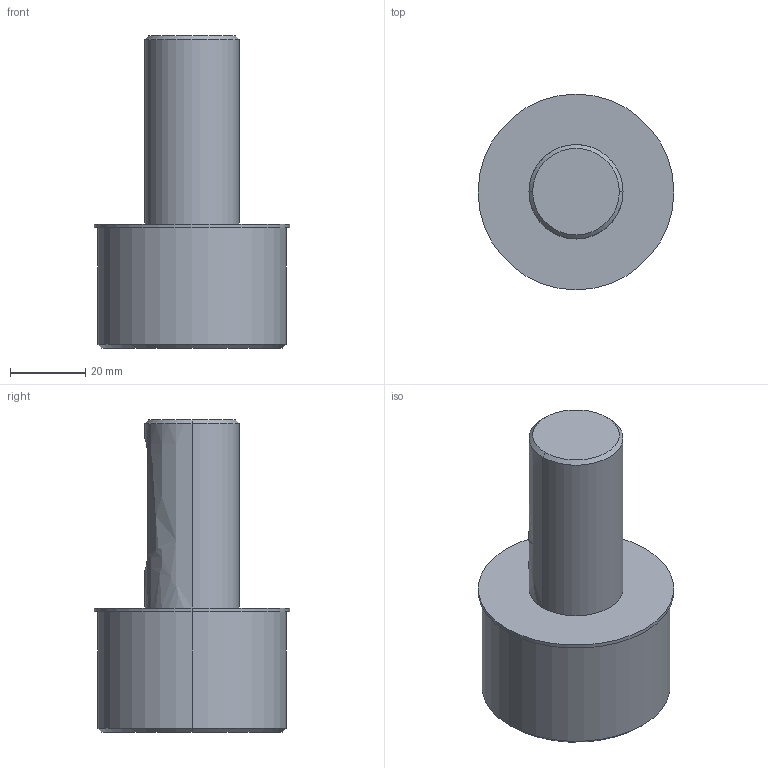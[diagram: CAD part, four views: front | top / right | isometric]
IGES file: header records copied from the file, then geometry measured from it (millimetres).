
Start section:  PTC IGES file: SJ-100.igs
Global section: file name: SJ-100.igs; native system: Pro/ENGINEER by Parametric Technology Corporation; preprocessor: 2009440; author: Owner; organization: Unknown; date: 20170331.160436; units: millimetre
Bounding box: 52 x 52 x 83 mm (x, y, z)
Volume: 88373.4 mm3; surface area: 13492 mm2
Topology: 1 solids, 1 shells, 19 faces, 38 edges, 24 vertices
Faces by surface type: revolution 12, bspline 7
